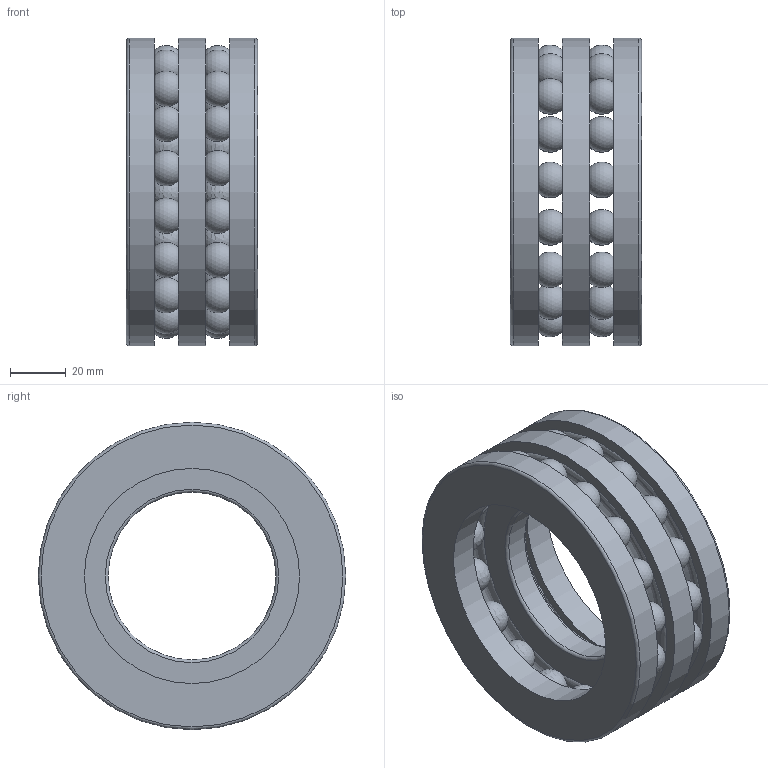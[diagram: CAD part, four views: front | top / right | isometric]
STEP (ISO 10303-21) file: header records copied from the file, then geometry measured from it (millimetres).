
FILE_DESCRIPTION( ( 'STEP AP214' ), ' ' );
FILE_NAME( 'p:/temp/worker_2961/3648_3192/app_40_02018020319111929232209192d056f_000000_00_00_000000/format_0/52215.stp', '2018-02-03T18:11:21', ( '' ), ( '' ), ' ', 'PARTsolutions', ' ' );
FILE_SCHEMA( ( 'AUTOMOTIVE_DESIGN { 1 0 10303 214 1 1 1 1 }' ) );
Length unit declared in the file: millimetre
Products named in the file (6): 52215; _52215_PART1; _52215_PART2; _52215_PART3; _52215_PART4; _52215_PART5
Assembly tree (37 placements, depth 2):
  52215
    _52215_PART1
    _52215_PART2
    _52215_PART3
    _52215_PART4  x17
    _52215_PART5  x17
Bounding box: 47 x 110 x 110 mm (x, y, z)
Volume: 183981.5 mm3; surface area: 67994.1 mm2
Topology: 37 solids, 37 shells, 58 faces, 140 edges, 92 vertices
Faces by surface type: sphere 34, plane 10, torus 8, cylinder 6
Full cylindrical faces by diameter (mm): 60 x1, 77 x2, 110 x3
Entity records: 1098 total; most frequent: DIRECTION 176, CARTESIAN_POINT 116, AXIS2_PLACEMENT_3D 88, EDGE_LOOP 48, ORIENTED_EDGE 48, PRODUCT_DEFINITION_SHAPE 43, FACE_OUTER_BOUND 38, CONTEXT_DEPENDENT_SHAPE_REPRESENTATION 37
